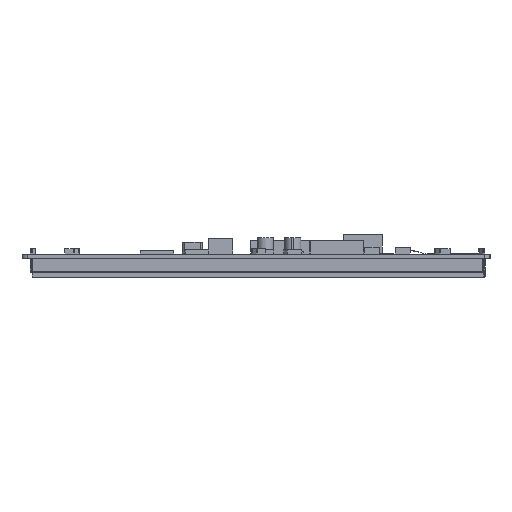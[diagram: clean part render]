
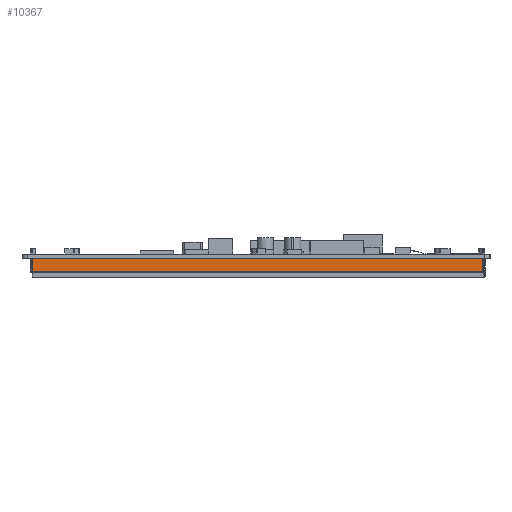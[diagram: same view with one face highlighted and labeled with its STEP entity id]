
A CAD part, left-side view. The second image highlights one B-rep face of the part: STEP entity #10367.
In plain terms, the highlighted planar face has unit normal (-1, 0, 0).
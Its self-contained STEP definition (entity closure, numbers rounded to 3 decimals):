
#10367=ADVANCED_FACE('',(#15364),#12913,.F.);
#12913=PLANE('',#50368);
#15364=FACE_OUTER_BOUND('',#17979,.T.);
#17979=EDGE_LOOP('',(#27066,#27067,#27068,#27069));
#27066=ORIENTED_EDGE('',*,*,#37006,.F.);
#27067=ORIENTED_EDGE('',*,*,#37007,.T.);
#27068=ORIENTED_EDGE('',*,*,#37008,.T.);
#27069=ORIENTED_EDGE('',*,*,#37009,.T.);
#32012=VERTEX_POINT('',#71134);
#32013=VERTEX_POINT('',#71135);
#32014=VERTEX_POINT('',#71137);
#32015=VERTEX_POINT('',#71139);
#37006=EDGE_CURVE('',#32012,#32013,#42311,.T.);
#37007=EDGE_CURVE('',#32012,#32014,#42312,.T.);
#37008=EDGE_CURVE('',#32014,#32015,#42313,.T.);
#37009=EDGE_CURVE('',#32015,#32013,#42314,.T.);
#42311=LINE('',#71133,#47400);
#42312=LINE('',#71136,#47401);
#42313=LINE('',#71138,#47402);
#42314=LINE('',#71140,#47403);
#47400=VECTOR('',#59557,1.);
#47401=VECTOR('',#59558,1.);
#47402=VECTOR('',#59559,1.);
#47403=VECTOR('',#59560,1.);
#50368=AXIS2_PLACEMENT_3D('',#71141,#59561,#59562);
#59557=DIRECTION('',(0.,0.,1.));
#59558=DIRECTION('',(0.,-1.,0.));
#59559=DIRECTION('',(0.,0.,1.));
#59560=DIRECTION('',(0.,1.,0.));
#59561=DIRECTION('',(1.,0.,0.));
#59562=DIRECTION('',(0.,1.,0.));
#71133=CARTESIAN_POINT('',(-94.685,79.608,-6.8));
#71134=CARTESIAN_POINT('',(-94.685,79.608,-6.2));
#71135=CARTESIAN_POINT('',(-94.685,79.608,-1.6));
#71136=CARTESIAN_POINT('',(-94.685,-84.792,-6.2));
#71137=CARTESIAN_POINT('',(-94.685,-84.792,-6.2));
#71138=CARTESIAN_POINT('',(-94.685,-84.792,-6.8));
#71139=CARTESIAN_POINT('',(-94.685,-84.792,-1.6));
#71140=CARTESIAN_POINT('',(-94.685,-84.792,-1.6));
#71141=CARTESIAN_POINT('',(-94.685,-84.792,-6.8));
